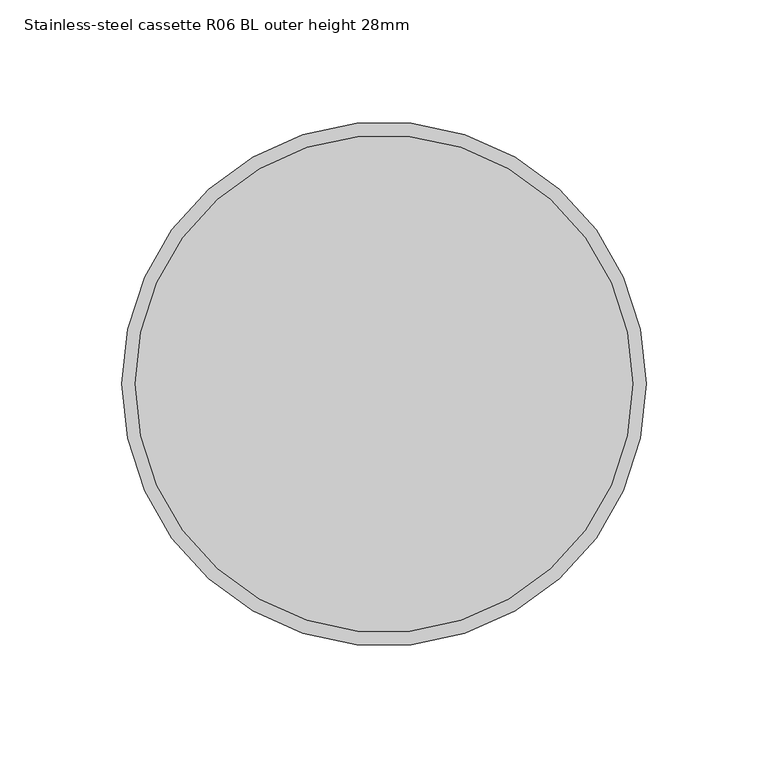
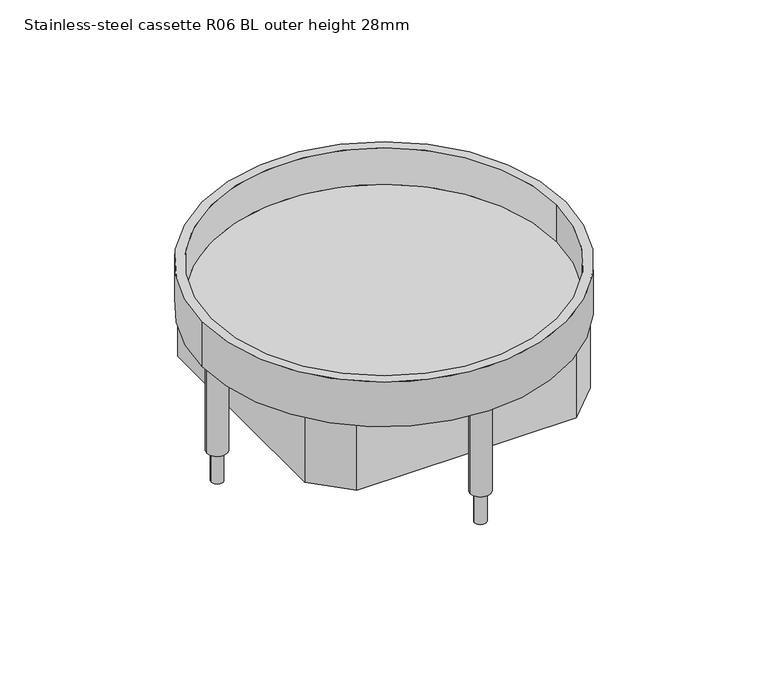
"""IFC4 building model written with IfcOpenShell, lengths in millimetres: proxy geometry, Electrical_Installation_Hager_VE-EE_EKR-Height-adjustable-stainless-steel-cassette-blank-round-for-damp-cleaned-floors : Stainless-steel cassette R06 BL outer height 28mm."""

import ifcopenshell
import ifcopenshell.guid

model = None  # the IFC model being written
_history = None  # IfcOwnerHistory: only IFC2X3 demands one
_inside = {}  # id of a spatial element -> (the spatial element, [elements in it])
_under = {}  # id of a project, library or spatial element -> (it, [spatial elements below it])
_declared = {}  # id of a project -> (the project, [libraries it declares])
_typed = {}  # id of a type object -> (the type object, [elements of that type])
_made_of = {}  # id of a material, layer set ... -> (it, [elements and type objects made of it])


def new_model(schema):
    """Start an empty IFC model of exactly this schema.

    Asked for "IFC4X3", IfcOpenShell would pick the latest addendum, in which some entities
    have other attributes; the version numbers below select the first issue.
    IFC2X3 requires an IfcOwnerHistory on every rooted entity: one is made here for all.
    """
    global model, _history
    if schema == "IFC4X3":
        model = ifcopenshell.file(schema_version=(4, 3, 0, 0))
    else:
        model = ifcopenshell.file(schema=schema)
    _inside.clear()
    _under.clear()
    _declared.clear()
    _typed.clear()
    _made_of.clear()
    _history = None
    if model.schema == "IFC2X3":
        org = make("IfcOrganization", Name="unknown")
        user = make(
            "IfcPersonAndOrganization",
            ThePerson=make("IfcPerson", FamilyName="unknown"),
            TheOrganization=org,
        )
        app = make(
            "IfcApplication",
            ApplicationDeveloper=org,
            Version="unknown",
            ApplicationFullName="unknown",
            ApplicationIdentifier="unknown",
        )
        _history = make(
            "IfcOwnerHistory",
            OwningUser=user,
            OwningApplication=app,
            ChangeAction="ADDED",
            CreationDate=0,
        )
    return model


def make(cls, **values):
    """One entity of the class cls with the attributes given. An attribute that is None is left unset."""
    return model.create_entity(
        cls, **{name: value for name, value in values.items() if value is not None}
    )


def rooted(cls, **values):
    """An entity with a GlobalId (a new one), such as an element, a storey or a relation."""
    return make(cls, GlobalId=ifcopenshell.guid.new(), OwnerHistory=_history, **values)


def si_unit(unit_type, name, prefix=None):
    """IfcSIUnit, for example si_unit("LENGTHUNIT", "METRE", prefix="MILLI")."""
    return make("IfcSIUnit", UnitType=unit_type, Prefix=prefix, Name=name)


def assignment(units):
    """IfcUnitAssignment: the units of a project."""
    return None if units is None else make("IfcUnitAssignment", Units=units)


def point(xyz):
    """IfcCartesianPoint."""
    return None if xyz is None else make("IfcCartesianPoint", Coordinates=xyz)


def direction(xyz):
    """IfcDirection."""
    return None if xyz is None else make("IfcDirection", DirectionRatios=xyz)


def frame(location, z_axis=None, x_axis=None):
    """IfcAxis2Placement3D, a coordinate frame: its origin and axes. An axis left out is left unset."""
    return make(
        "IfcAxis2Placement3D",
        Location=point(location),
        Axis=direction(z_axis),
        RefDirection=direction(x_axis),
    )


def frame_2d(location, x_axis=None):
    """IfcAxis2Placement2D, a coordinate frame in the plane: its origin and x axis."""
    return make(
        "IfcAxis2Placement2D", Location=point(location), RefDirection=direction(x_axis)
    )


def origin():
    """The frame at (0, 0, 0) with its axes left unset."""
    return frame((0.0, 0.0, 0.0))


def place(relative_to, where):
    """IfcLocalPlacement: puts the frame where relative to a parent placement (None: the world)."""
    return make(
        "IfcLocalPlacement", PlacementRelTo=relative_to, RelativePlacement=where
    )


def context(
    kind, dimensions, precision=None, world=None, true_north=None, identifier=None
):
    """IfcGeometricRepresentationContext, for example the 3D "Model" context."""
    return make(
        "IfcGeometricRepresentationContext",
        ContextIdentifier=identifier,
        ContextType=kind,
        CoordinateSpaceDimension=dimensions,
        Precision=precision,
        WorldCoordinateSystem=world,
        TrueNorth=true_north,
    )


def project(units=None, contexts=None):
    """IfcProject with its units and contexts."""
    return rooted(
        "IfcProject",
        Name="project",
        RepresentationContexts=contexts,
        UnitsInContext=assignment(units),
    )


def spatial(cls, under=None, at=None, **own):
    """A site, building, storey or space (cls), placed at a placement, below another one or the project."""
    s = rooted(cls, ObjectPlacement=at, **own)
    if under is not None:
        _under.setdefault(under.id(), (under, []))[1].append(s)
    return s


def polyline(points):
    """IfcPolyline through the points."""
    return make("IfcPolyline", Points=[point(p) for p in points])


def circle_curve(where, radius):
    """IfcCircle in the frame where."""
    return make("IfcCircle", Position=where, Radius=radius)


def trimmed(basis, trim1, trim2, sense, master):
    """IfcTrimmedCurve: the piece of a basis curve between two trims."""
    return make(
        "IfcTrimmedCurve",
        BasisCurve=basis,
        Trim1=trim1,
        Trim2=trim2,
        SenseAgreement=sense,
        MasterRepresentation=master,
    )


def segment(curve, same_sense, transition):
    """IfcCompositeCurveSegment."""
    return make(
        "IfcCompositeCurveSegment",
        Transition=transition,
        SameSense=same_sense,
        ParentCurve=curve,
    )


def composite_curve(segments, self_intersect=None):
    """IfcCompositeCurve: segments joined end to end."""
    return make("IfcCompositeCurve", Segments=segments, SelfIntersect=self_intersect)


def outline(outer, holes=None, kind="AREA"):
    """IfcArbitraryClosedProfileDef: a profile drawn as a closed curve; with holes, ...WithVoids."""
    if holes is None:
        return make("IfcArbitraryClosedProfileDef", ProfileType=kind, OuterCurve=outer)
    return make(
        "IfcArbitraryProfileDefWithVoids",
        ProfileType=kind,
        OuterCurve=outer,
        InnerCurves=holes,
    )


def extrude(swept, where, along, depth):
    """IfcExtrudedAreaSolid: the profile swept, set in the frame where, extruded along a direction by depth."""
    return make(
        "IfcExtrudedAreaSolid",
        SweptArea=swept,
        Position=where,
        ExtrudedDirection=direction(along),
        Depth=depth,
    )


def shape(context_of_items, identifier, shape_type, items):
    """IfcShapeRepresentation: the items that make up one representation, for example the "Body"."""
    return make(
        "IfcShapeRepresentation",
        ContextOfItems=context_of_items,
        RepresentationIdentifier=identifier,
        RepresentationType=shape_type,
        Items=items,
    )


def source(mapping_origin, context_of_items, identifier, shape_type, items):
    """IfcRepresentationMap: a shape defined once, which mapped items show again and again."""
    return make(
        "IfcRepresentationMap",
        MappingOrigin=mapping_origin,
        MappedRepresentation=shape(context_of_items, identifier, shape_type, items),
    )


def transform(
    local_origin,
    x_axis=None,
    y_axis=None,
    z_axis=None,
    scale=None,
    scale2=None,
    scale3=None,
    uniform=True,
):
    """IfcCartesianTransformationOperator3D, or its non-uniform kind. x_axis, y_axis, z_axis: its Axis1, 2, 3."""
    if uniform:
        return make(
            "IfcCartesianTransformationOperator3D",
            Axis1=direction(x_axis),
            Axis2=direction(y_axis),
            LocalOrigin=point(local_origin),
            Scale=scale,
            Axis3=direction(z_axis),
        )
    return make(
        "IfcCartesianTransformationOperator3DnonUniform",
        Axis1=direction(x_axis),
        Axis2=direction(y_axis),
        LocalOrigin=point(local_origin),
        Scale=scale,
        Axis3=direction(z_axis),
        Scale2=scale2,
        Scale3=scale3,
    )


def mapped(mapping_source, mapping_target):
    """IfcMappedItem: shows the shape of a source again, moved by a transform."""
    return make(
        "IfcMappedItem", MappingSource=mapping_source, MappingTarget=mapping_target
    )


def made_of(thing, what):
    """Note that an element or type object is made of a material, layer set ...; save() writes the relation."""
    if what is not None:
        _made_of.setdefault(what.id(), (what, []))[1].append(thing)
    return thing


def element(
    cls,
    number,
    at=None,
    inside=None,
    cuts=None,
    type_object=None,
    material=None,
    context=None,
    identifier="Body",
    shape_type=None,
    held_by="IfcProductDefinitionShape",
    body=None,
    shapes=None,
    **own,
):
    """One element of the class cls, such as IfcWall. Its Tag is "e" and its number.

    at: its placement. inside: the storey or other place that contains it. cuts: it is an
    opening in that element (IfcRelVoidsElement). A single representation is given by context,
    identifier, shape_type and body (its items); several are given by shapes. held_by: the class
    of the entity that holds the representations. save() writes the other relations.
    """
    e = rooted(cls, Tag="e%d" % number, ObjectPlacement=at, **own)
    if body is not None:
        shapes = [shape(context, identifier, shape_type, body)]
    if shapes is not None:
        e.Representation = make(held_by, Representations=shapes)
    if inside is not None:
        _inside.setdefault(inside.id(), (inside, []))[1].append(e)
    if cuts is not None:
        rooted(
            "IfcRelVoidsElement", RelatingBuildingElement=cuts, RelatedOpeningElement=e
        )
    if type_object is not None:
        _typed.setdefault(type_object.id(), (type_object, []))[1].append(e)
    return made_of(e, material)


def aggregate(whole, parts):
    """IfcRelAggregates: a whole, such as a stair, and the parts it consists of."""
    return rooted("IfcRelAggregates", RelatingObject=whole, RelatedObjects=parts)


def save(model, path):
    """Write the relations noted so far, then the file.

    IfcRelAggregates (storeys below a building ...), IfcRelContainedInSpatialStructure (elements
    in a storey), IfcRelDefinesByType, IfcRelAssociatesMaterial and IfcRelDeclares: one each for
    every whole, place, type object, material and project.
    """
    for whole, parts in _under.values():
        aggregate(whole, parts)
    for where, things in _inside.values():
        rooted(
            "IfcRelContainedInSpatialStructure",
            RelatedElements=things,
            RelatingStructure=where,
        )
    for kind, things in _typed.values():
        rooted("IfcRelDefinesByType", RelatedObjects=things, RelatingType=kind)
    for what, things in _made_of.values():
        rooted("IfcRelAssociatesMaterial", RelatedObjects=things, RelatingMaterial=what)
    for by, libraries in _declared.values():
        rooted("IfcRelDeclares", RelatingContext=by, RelatedDefinitions=libraries)
    model.write(path)


def plane_surface(at):
    """IfcPlane: the flat surface through the origin of the frame at, square to its z axis."""
    return make("IfcPlane", Position=at)


def cylinder_surface(at, radius):
    """IfcCylindricalSurface: all points at the distance radius from the z axis of the frame at."""
    return make("IfcCylindricalSurface", Position=at, Radius=radius)


def revolved_surface(curve, axis_point, axis_direction):
    """IfcSurfaceOfRevolution: the curve turned about the line through axis_point along axis_direction."""
    return make(
        "IfcSurfaceOfRevolution",
        SweptCurve=make("IfcArbitraryOpenProfileDef", ProfileType="CURVE", Curve=curve),
        AxisPosition=make("IfcAxis1Placement", Location=point(axis_point), Axis=direction(axis_direction)),
    )


def advanced_brep(points, edges, surfaces, faces):
    """IfcAdvancedBrep: a solid bounded by faces that lie on surfaces and meet in shared edges.

    An edge is (start, end): straight between two places in points (the first is 0);
    or (start, end, curve); or (start, end, curve, False) where it runs against its curve.
    A face is (place in surfaces, loops), or (place, loops, False) where it looks against
    its surface's normal. A loop lists edges by number (the first is 1), with a minus sign
    where the edge is run from its end to its start. The first loop is the outer one.
    """
    corners = [point(p) for p in points]
    vertices = [make("IfcVertexPoint", VertexGeometry=c) for c in corners]
    made = []
    for start, end, *more in edges:
        made.append(
            make(
                "IfcEdgeCurve",
                EdgeStart=vertices[start],
                EdgeEnd=vertices[end],
                EdgeGeometry=more[0] if more else make("IfcPolyline", Points=[corners[start], corners[end]]),
                SameSense=more[1] if len(more) > 1 else True,
            )
        )
    hull = []
    for where, loops, *sense in faces:
        bounds = []
        for j, loop in enumerate(loops):
            ring = [make("IfcOrientedEdge", EdgeElement=made[abs(k) - 1], Orientation=k > 0) for k in loop]
            bounds.append(
                make(
                    "IfcFaceOuterBound" if j == 0 else "IfcFaceBound",
                    Bound=make("IfcEdgeLoop", EdgeList=ring),
                    Orientation=True,
                )
            )
        hull.append(make("IfcAdvancedFace", Bounds=bounds, FaceSurface=surfaces[where], SameSense=sense[0] if sense else True))
    return make("IfcAdvancedBrep", Outer=make("IfcClosedShell", CfsFaces=hull))


def stainless_steel_cassette_r06_bl_outer_height_28mm_a6870199(model_context):
    return source(origin(), model_context, "Body", "SolidModel", [
        extrude(outline(composite_curve([segment(trimmed(circle_curve(frame_2d((-98.8, 0.0)), 3.5), [point((-102.3, 0.0))], [point((-95.3, 0.0))], False, "CARTESIAN"), True, "CONTINUOUS"), segment(trimmed(circle_curve(frame_2d((-98.8, 0.0)), 3.5), [point((-95.3, 0.0))], [point((-102.3, 0.0))], False, "CARTESIAN"), True, "CONTINUOUS")], self_intersect=False)), frame((0.0, 0.0, -100.0), z_axis=(0.0, 0.0, 1.0), x_axis=(1.0, 0.0, 0.0)), (0.0, 0.0, 1.0), 74.011943),
        extrude(outline(composite_curve([segment(trimmed(circle_curve(frame_2d((0.0, 98.8)), 3.5), [point((-3.5, 98.8))], [point((3.5, 98.8))], False, "CARTESIAN"), True, "CONTINUOUS"), segment(trimmed(circle_curve(frame_2d((0.0, 98.8)), 3.5), [point((3.5, 98.8))], [point((-3.5, 98.8))], False, "CARTESIAN"), True, "CONTINUOUS")], self_intersect=False)), frame((0.0, 0.0, -100.0), z_axis=(0.0, 0.0, 1.0), x_axis=(1.0, 0.0, 0.0)), (0.0, 0.0, 1.0), 74.011943),
        extrude(outline(composite_curve([segment(trimmed(circle_curve(frame_2d((98.8, 0.0)), 3.548869), [point((95.251131, 0.0))], [point((102.348869, 0.0))], False, "CARTESIAN"), True, "CONTINUOUS"), segment(trimmed(circle_curve(frame_2d((98.8, 0.0)), 3.548869), [point((102.348869, 0.0))], [point((95.251131, 0.0))], False, "CARTESIAN"), True, "CONTINUOUS")], self_intersect=False)), frame((0.0, 0.0, -100.0), z_axis=(0.0, 0.0, 1.0), x_axis=(1.0, 0.0, 0.0)), (0.0, 0.0, 1.0), 74.011943),
        extrude(outline(composite_curve([segment(trimmed(circle_curve(frame_2d((0.0, -98.8)), 3.5), [point((-3.5, -98.8))], [point((3.5, -98.8))], False, "CARTESIAN"), True, "CONTINUOUS"), segment(trimmed(circle_curve(frame_2d((0.0, -98.8)), 3.5), [point((3.5, -98.8))], [point((-3.5, -98.8))], False, "CARTESIAN"), True, "CONTINUOUS")], self_intersect=False)), frame((0.0, 0.0, -100.0), z_axis=(0.0, 0.0, 1.0), x_axis=(1.0, 0.0, 0.0)), (0.0, 0.0, 1.0), 74.011943),
        advanced_brep(
        [(102.0, 0.0, -20.988057), (-102.0, 0.0, -20.988057), (-107.5, 0.0, -25.988057), (107.5, 0.0, -25.988057), (-107.5, 0.0, 2.011943), (107.5, 0.0, 2.011943), (-102.0, 0.0, 2.011943), (102.0, 0.0, 2.011943)],
        [
            (0, 1, circle_curve(frame((0.0, 0.0, -20.988057), z_axis=(0.0, 0.0, 1.0), x_axis=(1.0, 0.0, 0.0)), 102.0)),
            (1, 0, circle_curve(frame((0.0, 0.0, -20.988057), z_axis=(0.0, 0.0, 1.0), x_axis=(1.0, 0.0, 0.0)), 102.0)),
            (2, 3, circle_curve(frame((0.0, 0.0, -25.988057), z_axis=(0.0, 0.0, -1.0), x_axis=(1.0, 0.0, 0.0)), 107.5)),
            (3, 2, circle_curve(frame((0.0, 0.0, -25.988057), z_axis=(0.0, 0.0, -1.0), x_axis=(1.0, 0.0, 0.0)), 107.5)),
            (4, 5, circle_curve(frame((0.0, 0.0, 2.011943), z_axis=(0.0, 0.0, 1.0), x_axis=(1.0, 0.0, 0.0)), 107.5)),
            (5, 4, circle_curve(frame((0.0, 0.0, 2.011943), z_axis=(0.0, 0.0, 1.0), x_axis=(1.0, 0.0, 0.0)), 107.5)),
            (6, 7, circle_curve(frame((0.0, 0.0, 2.011943), z_axis=(0.0, 0.0, -1.0), x_axis=(1.0, 0.0, 0.0)), 102.0)),
            (7, 6, circle_curve(frame((0.0, 0.0, 2.011943), z_axis=(0.0, 0.0, -1.0), x_axis=(1.0, 0.0, 0.0)), 102.0)),
            (4, 2),
            (3, 5),
            (6, 1),
            (0, 7),
        ],
        [
            plane_surface(frame((102.0, 0.0, -20.988057), z_axis=(0.0, 0.0, 1.0), x_axis=(0.0, 1.0, 0.0))),
            plane_surface(frame((102.0, 0.0, -25.988057), z_axis=(0.0, 0.0, -1.0), x_axis=(0.0, -1.0, 0.0))),
            plane_surface(frame((107.5, 0.0, 2.011943), z_axis=(0.0, 0.0, 1.0), x_axis=(0.0, 1.0, 0.0))),
            cylinder_surface(frame((0.0, 0.0, -25.988057), z_axis=(0.0, 0.0, 1.0), x_axis=(1.0, 0.0, 0.0)), 107.5),
            revolved_surface(polyline([(102.0, 0.0, -20.988057), (102.0, 0.0, 2.011943)]), (0.0, 0.0, 0.0), (0.0, 0.0, -1.0)),
        ],
        [
            (0, [[1, 2]]),
            (1, [[3, 4]]),
            (2, [[5, 6], [7, 8]]),
            (3, [[-5, 9, -4, 10]]),
            (3, [[-6, -10, -3, -9]]),
            (4, [[-7, 11, -1, 12]]),
            (4, [[-8, -12, -2, -11]]),
        ],
    ),
        extrude(outline(polyline([(64.9818914, 84.5), (84.5, 64.9818914), (84.5, -64.9818914), (64.9818914, -84.5), (-64.9818914, -84.5), (-84.5, -64.9818914), (-84.5, 64.9818914), (-64.9818914, 84.5), (64.9818914, 84.5)]), holes=[polyline([(-81.5, 63.8602374), (-81.5, -63.8602374), (-63.8602374, -81.5), (63.8602374, -81.5), (81.5, -63.8602374), (81.5, 63.8602374), (63.8602374, 81.5), (-63.8602374, 81.5), (-81.5, 63.8602374)])]), frame((0.0, 0.0, -66.9283404), z_axis=(0.0, 0.0, 1.0), x_axis=(1.0, 0.0, 0.0)), (0.0, 0.0, 1.0), 40.9402834),
        extrude(outline(composite_curve([segment(trimmed(circle_curve(frame_2d((0.0, 98.8)), 5.9738904), [point((-5.9738904, 98.8))], [point((5.9738904, 98.8))], False, "CARTESIAN"), True, "CONTINUOUS"), segment(trimmed(circle_curve(frame_2d((0.0, 98.8)), 5.9738904), [point((5.9738904, 98.8))], [point((-5.9738904, 98.8))], False, "CARTESIAN"), True, "CONTINUOUS")], self_intersect=False)), frame((0.0, 0.0, -81.0371838), z_axis=(0.0, 0.0, 1.0), x_axis=(1.0, 0.0, 0.0)), (0.0, 0.0, 1.0), 55.0491267),
        extrude(outline(composite_curve([segment(trimmed(circle_curve(frame_2d((98.8, 0.0)), 6.0), [point((92.8, 0.0))], [point((104.8, 0.0))], False, "CARTESIAN"), True, "CONTINUOUS"), segment(trimmed(circle_curve(frame_2d((98.8, 0.0)), 6.0), [point((104.8, 0.0))], [point((92.8, 0.0))], False, "CARTESIAN"), True, "CONTINUOUS")], self_intersect=False)), frame((0.0, 0.0, -81.0371838), z_axis=(0.0, 0.0, 1.0), x_axis=(1.0, 0.0, 0.0)), (0.0, 0.0, 1.0), 55.0491267),
        extrude(outline(composite_curve([segment(trimmed(circle_curve(frame_2d((0.0, -98.8)), 6.0), [point((-6.0, -98.8))], [point((6.0, -98.8))], False, "CARTESIAN"), True, "CONTINUOUS"), segment(trimmed(circle_curve(frame_2d((0.0, -98.8)), 6.0), [point((6.0, -98.8))], [point((-6.0, -98.8))], False, "CARTESIAN"), True, "CONTINUOUS")], self_intersect=False)), frame((0.0, 0.0, -81.0371838), z_axis=(0.0, 0.0, 1.0), x_axis=(1.0, 0.0, 0.0)), (0.0, 0.0, 1.0), 55.0491267),
        extrude(outline(composite_curve([segment(trimmed(circle_curve(frame_2d((-98.8, 0.0)), 6.0), [point((-104.8, 0.0))], [point((-92.8, 0.0))], False, "CARTESIAN"), True, "CONTINUOUS"), segment(trimmed(circle_curve(frame_2d((-98.8, 0.0)), 6.0), [point((-92.8, 0.0))], [point((-104.8, 0.0))], False, "CARTESIAN"), True, "CONTINUOUS")], self_intersect=False)), frame((0.0, 0.0, -81.0371838), z_axis=(0.0, 0.0, 1.0), x_axis=(1.0, 0.0, 0.0)), (0.0, 0.0, 1.0), 55.0491267),
    ])


if __name__ == "__main__":
    model = new_model("IFC4")
    model_context = context("Model", 3, world=origin())
    ifc_project = project(units=[si_unit("LENGTHUNIT", "METRE", prefix="MILLI")], contexts=[model_context])
    site = spatial("IfcSite", under=ifc_project)
    building = spatial("IfcBuilding", under=site)
    placement = place(None, origin())
    stainless_steel_cassette_r06_bl_outer_height_28mm_shape = stainless_steel_cassette_r06_bl_outer_height_28mm_a6870199(model_context)
    element("IfcBuildingElementProxy", 1, Name="Electrical_Installation_Hager_VE-EE_EKR-Height-adjustable-stainless-steel-cassette-blank-round-for-damp-cleaned-floors : Stainless-steel cassette R06 BL outer height 28mm", ObjectType="Electrical_Installation_Hager_VE-EE_EKR-Height-adjustable-stainless-steel-cassette-blank-round-for-damp-cleaned-floors : Stainless-steel cassette R06 BL outer height 28mm", at=placement, inside=building, context=model_context, shape_type="MappedRepresentation", body=[
        mapped(stainless_steel_cassette_r06_bl_outer_height_28mm_shape, transform((0.0, 0.0, 0.0), x_axis=(1.0, 0.0, 0.0), y_axis=(0.0, 1.0, 0.0), z_axis=(0.0, 0.0, 1.0))),
    ])
    save(model, "model.ifc")
